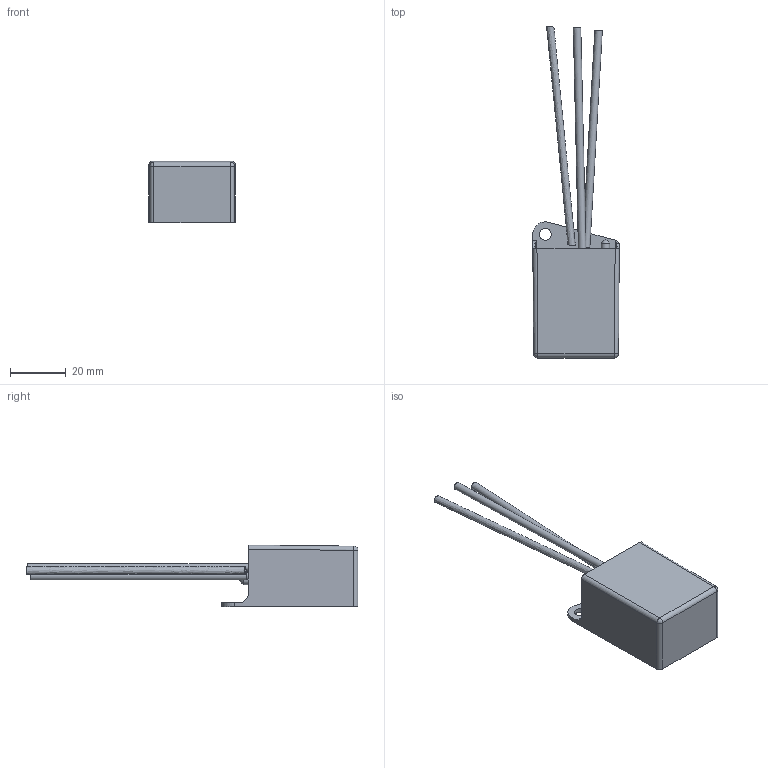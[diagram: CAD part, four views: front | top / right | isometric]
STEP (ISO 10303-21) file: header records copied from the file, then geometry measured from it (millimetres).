
FILE_DESCRIPTION(/* description */ ('Unknown'),/* implementation_level */ '2;1');
FILE_NAME(/* name */ 'SD05K系列',/* time_stamp */ '2023-04-11T08:54:22+08:00',/* author */ ('Unknown'),/* organization */ ('Unknown'),/* preprocessor_version */ 'ST-DEVELOPER v16.7',/* originating_system */ 'Solid Edge',/* authorisation */ 'Unknown');
FILE_SCHEMA (('AUTOMOTIVE_DESIGN {1 0 10303 214 3 1 1}'));
Length unit declared in the file: millimetre
Products named in the file (1): SD05K系诲垪
Bounding box: 31.18 x 119.45 x 22.17 mm (x, y, z)
Volume: 13370.9 mm3; surface area: 19246.6 mm2
Topology: 2 solids, 2 shells, 1127 faces, 3108 edges, 1971 vertices
Faces by surface type: plane 618, cylinder 421, torus 34, bspline 33, sphere 16, cone 5
Full cylindrical faces by diameter (mm): 0.35 x16, 0.6 x1, 0.617 x1, 0.635 x1, 0.75 x1, 0.8 x6, 0.9 x18, 1 x4, 1.05 x3, 1.2 x3, 1.25 x5, 1.5 x5, 2.7 x10, 3 x1, 4 x2, 4.3 x1, 8 x1
Entity records: 43783 total; most frequent: CARTESIAN_POINT 7784, DIRECTION 5814, ORIENTED_EDGE 5780, EDGE_CURVE 2890, AXIS2_PLACEMENT_3D 2003, VERTEX_POINT 1912, LINE 1808, VECTOR 1808
